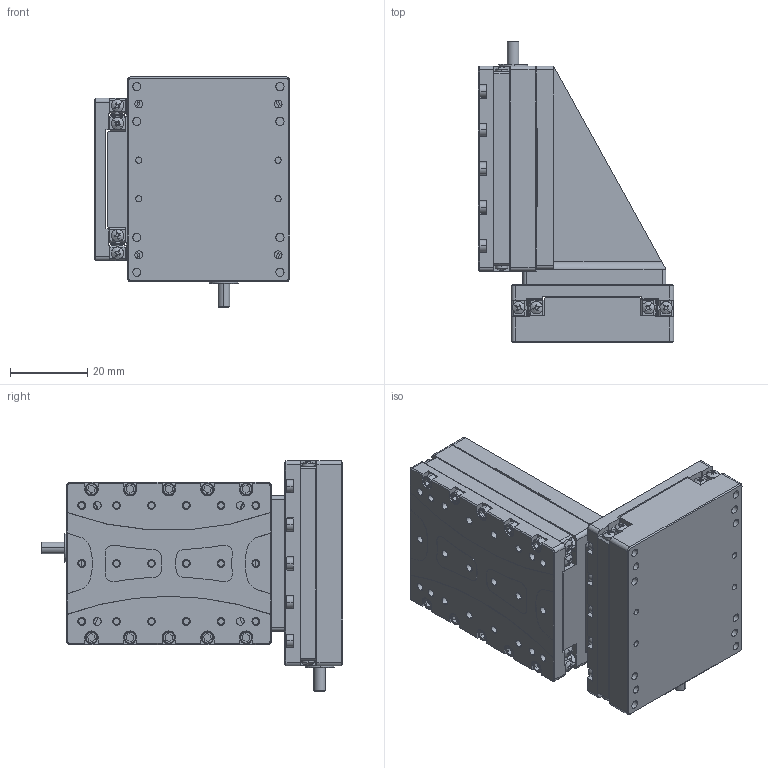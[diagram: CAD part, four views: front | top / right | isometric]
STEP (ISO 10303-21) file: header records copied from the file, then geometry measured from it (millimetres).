
FILE_DESCRIPTION (( 'STEP AP214' ), '1' );
FILE_NAME ('N56.XZ30E-B1闭环二维直线压电马达3D图（25.08.01）.STEP', '2026-05-26T08:57:31', ( '微软用户' ), ( '微软中国' ), 'SwSTEP 2.0', 'SolidWorks 2016', '' );
FILE_SCHEMA (( 'AUTOMOTIVE_DESIGN' ));
Length unit declared in the file: millimetre
Products named in the file (1): N56.XZ30E-B1闭环二维直线压电马达3D图（25.08.01）
Bounding box: 50.5 x 78 x 59.5 mm (x, y, z)
Volume: 64483.8 mm3; surface area: 51087.6 mm2
Topology: 119 solids, 119 shells, 2877 faces, 7215 edges, 4698 vertices
Faces by surface type: plane 1385, cylinder 1240, cone 160, bspline 92
Entity records: 121010 total; most frequent: CARTESIAN_POINT 17793, DIRECTION 14991, ORIENTED_EDGE 14230, EDGE_CURVE 7115, AXIS2_PLACEMENT_3D 5584, VERTEX_POINT 4698, LINE 3823, VECTOR 3823
